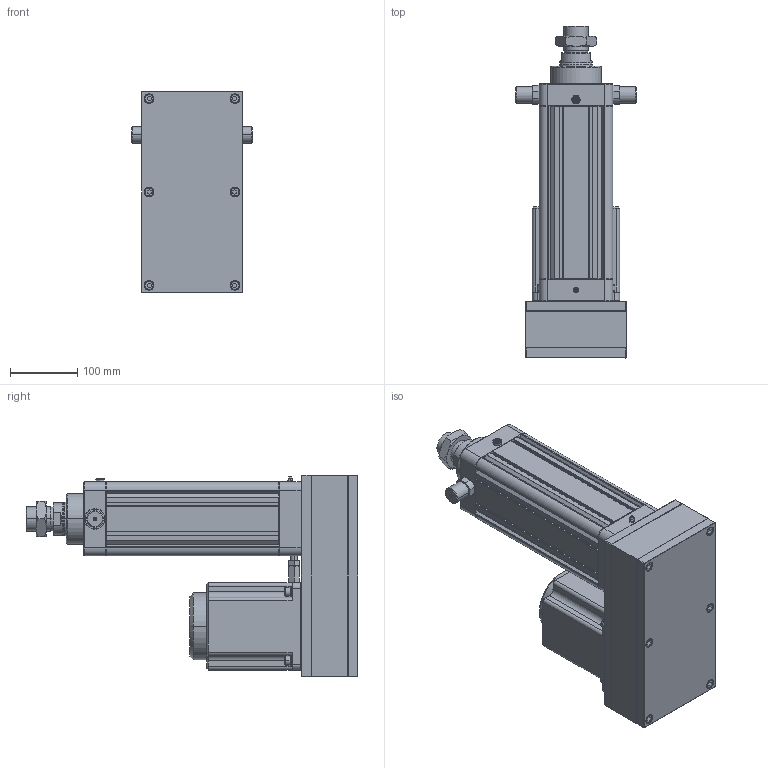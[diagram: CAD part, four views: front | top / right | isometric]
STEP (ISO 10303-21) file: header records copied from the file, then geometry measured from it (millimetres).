
FILE_DESCRIPTION((''),'2;1');
FILE_NAME('HE100-D-P_ASM','2020-05-11T',('ASUS20200'),(''),'CREO PARAMETRIC BY PTC INC, 2014190','CREO PARAMETRIC BY PTC INC, 2014190','');
FILE_SCHEMA(('CONFIG_CONTROL_DESIGN'));
Length unit declared in the file: millimetre
Products named in the file (24): HE100-D-P-001-X1; HE100-D-P-002-X1; HE100-D-P-003-X1; JDB506030; SLM-01; YZ-M6X1; HE100-100-D-P-X1_ASM; HE100-P-010-X1-130N; 130ST-M10010; HE100-P-009-X1-130N; HE100-P-013-X1-130N; TD-8; M8X35; M8X75; LM-M8-7-5; M10X1-25-40; LM-M10-30; LM-M10; HE100-D-P-005-X1; HE100-D-P-004-X1; HE80-D-P-008-X1; LGLM-M10-25; HE100-TC; HE100-D-P_ASM
Assembly tree (41 placements, depth 3):
  HE100-D-P_ASM
    HE100-100-D-P-X1_ASM
      HE100-D-P-001-X1
      HE100-D-P-002-X1
      HE100-D-P-003-X1
      JDB506030
      SLM-01
      YZ-M6X1
    HE100-P-010-X1-130N
    130ST-M10010
    HE100-P-009-X1-130N
    HE100-P-013-X1-130N
    TD-8  x4
    M8X35  x4
    M8X75  x6
    LM-M8-7-5  x4
    M10X1-25-40
    LM-M10-30
    LM-M10
    HE100-D-P-005-X1
    HE100-D-P-004-X1
    HE80-D-P-008-X1
    LGLM-M10-25  x4
    HE100-TC  x2
Bounding box: 180 x 494 x 300 mm (x, y, z)
Volume: 5789561 mm3; surface area: 1040791.4 mm2
Topology: 40 solids, 72 shells, 2393 faces, 5582 edges, 3327 vertices
Faces by surface type: plane 903, cone 778, cylinder 616, torus 66, sphere 26, bspline 4
Entity records: 57042 total; most frequent: CARTESIAN_POINT 11331, DIRECTION 9947, ORIENTED_EDGE 8946, EDGE_CURVE 4534, AXIS2_PLACEMENT_3D 3745, VERTEX_POINT 2709, VECTOR 2457, LINE 2457
